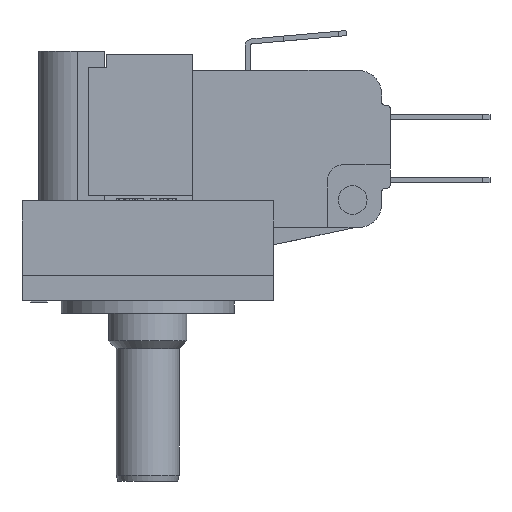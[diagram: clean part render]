
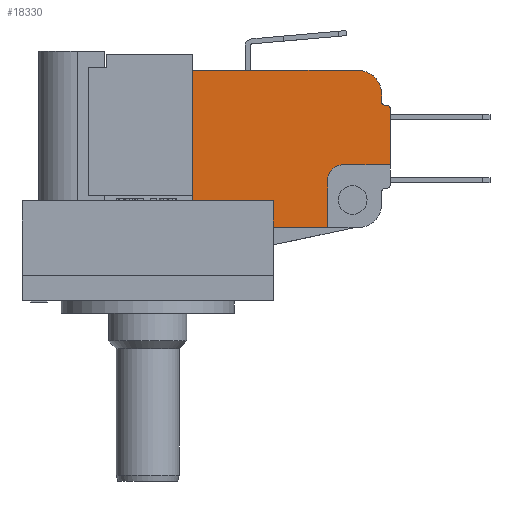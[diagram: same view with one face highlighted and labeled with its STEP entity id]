
A CAD part, left-side view. The second image highlights one B-rep face of the part: STEP entity #18330.
In plain terms, the highlighted planar face has unit normal (-1, 0, 0) as drawn and (0, 0, 1) by its records, which use the part's own axes.
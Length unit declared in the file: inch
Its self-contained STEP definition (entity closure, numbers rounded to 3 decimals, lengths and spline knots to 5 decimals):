
#17601=CARTESIAN_POINT('',(-0.7097,-0.17251,0.1925));
#17602=VERTEX_POINT('',#17601);
#17603=CARTESIAN_POINT('',(-0.7247,-0.15751,0.1925));
#17604=VERTEX_POINT('',#17603);
#17605=CARTESIAN_POINT('',(-0.7097,-0.15751,0.1925));
#17606=DIRECTION('',(0.0,0.0,-1.));
#17607=DIRECTION('',(-0.707,-0.707,0.0));
#17608=AXIS2_PLACEMENT_3D('',#17605,#17606,#17607);
#17609=CIRCLE('',#17608,0.015);
#17610=EDGE_CURVE('',#17602,#17604,#17609,.T.);
#17652=CARTESIAN_POINT('',(-0.7047,-0.17251,0.1925));
#17653=VERTEX_POINT('',#17652);
#17660=CARTESIAN_POINT('',(-0.7097,-0.17251,0.1925));
#17661=DIRECTION('',(1.0,0.0,0.0));
#17662=VECTOR('',#17661,0.005);
#17663=LINE('',#17660,#17662);
#17664=EDGE_CURVE('',#17602,#17653,#17663,.T.);
#17873=CARTESIAN_POINT('',(-0.6897,-0.18751,0.1925));
#17874=VERTEX_POINT('',#17873);
#17881=CARTESIAN_POINT('',(-0.7047,-0.18751,0.1925));
#17882=DIRECTION('',(0.0,0.0,1.));
#17883=DIRECTION('',(0.707,0.707,0.0));
#17884=AXIS2_PLACEMENT_3D('',#17881,#17882,#17883);
#17885=CIRCLE('',#17884,0.015);
#17886=EDGE_CURVE('',#17874,#17653,#17885,.T.);
#17899=CARTESIAN_POINT('',(-0.6897,-0.21871,0.1925));
#17900=VERTEX_POINT('',#17899);
#17907=CARTESIAN_POINT('',(-0.6897,-0.18751,0.1925));
#17908=DIRECTION('',(0.0,-1.0,0.0));
#17909=VECTOR('',#17908,0.0312);
#17910=LINE('',#17907,#17909);
#17911=EDGE_CURVE('',#17874,#17900,#17910,.T.);
#18057=CARTESIAN_POINT('',(-0.5967,-0.31171,0.1925));
#18058=VERTEX_POINT('',#18057);
#18065=CARTESIAN_POINT('',(-0.5967,-0.21871,0.1925));
#18066=DIRECTION('',(0.0,0.0,-1.));
#18067=DIRECTION('',(-0.707,-0.707,0.0));
#18068=AXIS2_PLACEMENT_3D('',#18065,#18066,#18067);
#18069=CIRCLE('',#18068,0.093);
#18070=EDGE_CURVE('',#18058,#17900,#18069,.T.);
#18171=CARTESIAN_POINT('',(-0.4747,0.31329,0.1925));
#18172=VERTEX_POINT('',#18171);
#18179=CARTESIAN_POINT('',(0.3173,0.31329,0.1925));
#18180=VERTEX_POINT('',#18179);
#18181=CARTESIAN_POINT('',(-0.4747,0.31329,0.1925));
#18182=DIRECTION('',(1.0,0.0,0.0));
#18183=VECTOR('',#18182,0.792);
#18184=LINE('',#18181,#18183);
#18185=EDGE_CURVE('',#18172,#18180,#18184,.T.);
#18238=CARTESIAN_POINT('',(-0.15786,0.00153,0.1925));
#18239=DIRECTION('',(0.0,0.0,1.0));
#18240=DIRECTION('',(1.0,0.0,0.0));
#18241=AXIS2_PLACEMENT_3D('',#18238,#18239,#18240);
#18242=PLANE('',#18241);
#18243=ORIENTED_EDGE('',*,*,#17610,.F.);
#18244=ORIENTED_EDGE('',*,*,#17664,.T.);
#18245=ORIENTED_EDGE('',*,*,#17886,.F.);
#18246=ORIENTED_EDGE('',*,*,#17911,.T.);
#18247=ORIENTED_EDGE('',*,*,#18070,.F.);
#18248=CARTESIAN_POINT('',(0.1503,-0.31171,0.1925));
#18249=VERTEX_POINT('',#18248);
#18250=CARTESIAN_POINT('',(0.1503,-0.31171,0.1925));
#18251=DIRECTION('',(-1.0,0.0,0.0));
#18252=VECTOR('',#18251,0.747);
#18253=LINE('',#18250,#18252);
#18254=EDGE_CURVE('',#18249,#18058,#18253,.T.);
#18255=ORIENTED_EDGE('',*,*,#18254,.F.);
#18256=CARTESIAN_POINT('',(0.1503,-0.12171,0.1925));
#18257=VERTEX_POINT('',#18256);
#18258=CARTESIAN_POINT('',(0.1503,-0.31171,0.1925));
#18259=DIRECTION('',(0.0,1.0,0.0));
#18260=VECTOR('',#18259,0.19);
#18261=LINE('',#18258,#18260);
#18262=EDGE_CURVE('',#18249,#18257,#18261,.T.);
#18263=ORIENTED_EDGE('',*,*,#18262,.T.);
#18264=CARTESIAN_POINT('',(0.2103,-0.06171,0.1925));
#18265=VERTEX_POINT('',#18264);
#18266=CARTESIAN_POINT('',(0.2103,-0.12171,0.1925));
#18267=DIRECTION('',(0.0,0.0,-1.0));
#18268=DIRECTION('',(0.0,1.0,0.0));
#18269=AXIS2_PLACEMENT_3D('',#18266,#18267,#18268);
#18270=CIRCLE('',#18269,0.06);
#18271=EDGE_CURVE('',#18257,#18265,#18270,.T.);
#18272=ORIENTED_EDGE('',*,*,#18271,.T.);
#18273=CARTESIAN_POINT('',(0.4103,-0.06171,0.1925));
#18274=VERTEX_POINT('',#18273);
#18275=CARTESIAN_POINT('',(0.2103,-0.06171,0.1925));
#18276=DIRECTION('',(1.0,0.0,0.0));
#18277=VECTOR('',#18276,0.2);
#18278=LINE('',#18275,#18277);
#18279=EDGE_CURVE('',#18265,#18274,#18278,.T.);
#18280=ORIENTED_EDGE('',*,*,#18279,.T.);
#18281=CARTESIAN_POINT('',(0.4103,0.22029,0.1925));
#18282=VERTEX_POINT('',#18281);
#18283=CARTESIAN_POINT('',(0.4103,0.22029,0.1925));
#18284=DIRECTION('',(0.0,-1.0,0.0));
#18285=VECTOR('',#18284,0.282);
#18286=LINE('',#18283,#18285);
#18287=EDGE_CURVE('',#18282,#18274,#18286,.T.);
#18288=ORIENTED_EDGE('',*,*,#18287,.F.);
#18289=CARTESIAN_POINT('',(0.3173,0.22029,0.1925));
#18290=DIRECTION('',(0.0,0.0,-1.));
#18291=DIRECTION('',(0.707,0.707,0.0));
#18292=AXIS2_PLACEMENT_3D('',#18289,#18290,#18291);
#18293=CIRCLE('',#18292,0.093);
#18294=EDGE_CURVE('',#18180,#18282,#18293,.T.);
#18295=ORIENTED_EDGE('',*,*,#18294,.F.);
#18296=ORIENTED_EDGE('',*,*,#18185,.F.);
#18297=CARTESIAN_POINT('',(-0.4747,0.12329,0.1925));
#18298=VERTEX_POINT('',#18297);
#18299=CARTESIAN_POINT('',(-0.4747,0.31329,0.1925));
#18300=DIRECTION('',(0.0,-1.0,0.0));
#18301=VECTOR('',#18300,0.19);
#18302=LINE('',#18299,#18301);
#18303=EDGE_CURVE('',#18172,#18298,#18302,.T.);
#18304=ORIENTED_EDGE('',*,*,#18303,.T.);
#18305=CARTESIAN_POINT('',(-0.5347,0.06329,0.1925));
#18306=VERTEX_POINT('',#18305);
#18307=CARTESIAN_POINT('',(-0.5347,0.12329,0.1925));
#18308=DIRECTION('',(0.0,0.0,-1.0));
#18309=DIRECTION('',(0.0,-1.0,0.0));
#18310=AXIS2_PLACEMENT_3D('',#18307,#18308,#18309);
#18311=CIRCLE('',#18310,0.06);
#18312=EDGE_CURVE('',#18298,#18306,#18311,.T.);
#18313=ORIENTED_EDGE('',*,*,#18312,.T.);
#18314=CARTESIAN_POINT('',(-0.7247,0.06329,0.1925));
#18315=VERTEX_POINT('',#18314);
#18316=CARTESIAN_POINT('',(-0.5347,0.06329,0.1925));
#18317=DIRECTION('',(-1.0,0.0,0.0));
#18318=VECTOR('',#18317,0.19);
#18319=LINE('',#18316,#18318);
#18320=EDGE_CURVE('',#18306,#18315,#18319,.T.);
#18321=ORIENTED_EDGE('',*,*,#18320,.T.);
#18322=CARTESIAN_POINT('',(-0.7247,-0.15751,0.1925));
#18323=DIRECTION('',(0.0,1.0,0.0));
#18324=VECTOR('',#18323,0.2208);
#18325=LINE('',#18322,#18324);
#18326=EDGE_CURVE('',#17604,#18315,#18325,.T.);
#18327=ORIENTED_EDGE('',*,*,#18326,.F.);
#18328=EDGE_LOOP('',(#18243,#18244,#18245,#18246,#18247,#18255,#18263,#18272,#18280,#18288,#18295,#18296,#18304,#18313,#18321,#18327));
#18329=FACE_OUTER_BOUND('',#18328,.T.);
#18330=ADVANCED_FACE('',(#18329),#18242,.T.);
